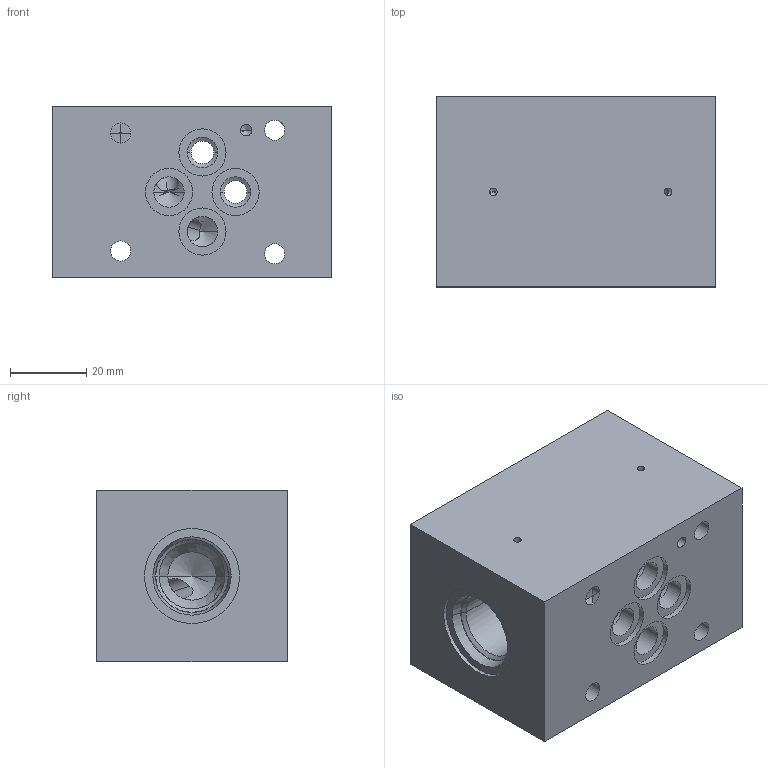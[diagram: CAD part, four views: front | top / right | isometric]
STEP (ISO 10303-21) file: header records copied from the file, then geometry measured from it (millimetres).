
FILE_DESCRIPTION((''),'2;1');
FILE_NAME('313962','2023-10-12T',('l.soukupova'),(''),'PRO/ENGINEER BY PARAMETRIC TECHNOLOGY CORPORATION, 2015440','PRO/ENGINEER BY PARAMETRIC TECHNOLOGY CORPORATION, 2015440','');
FILE_SCHEMA(('AUTOMOTIVE_DESIGN { 1 0 10303 214 1 1 1 1 }'));
Length unit declared in the file: millimetre
Products named in the file (1): 313962
Bounding box: 73.5 x 50 x 45 mm (x, y, z)
Volume: 146786.9 mm3; surface area: 28062.5 mm2
Topology: 1 solids, 6 shells, 97 faces, 366 edges, 337 vertices
Faces by surface type: cylinder 54, cone 27, plane 16
Entity records: 6225 total; most frequent: CARTESIAN_POINT 1402, DIRECTION 691, ORIENTED_EDGE 470, PRESENTATION_STYLE_ASSIGNMENT 442, STYLED_ITEM 402, CURVE_STYLE 398, AXIS2_PLACEMENT_3D 257, EDGE_CURVE 245
